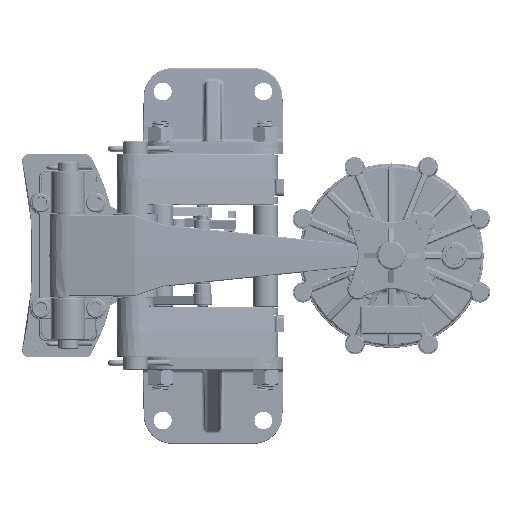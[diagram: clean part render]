
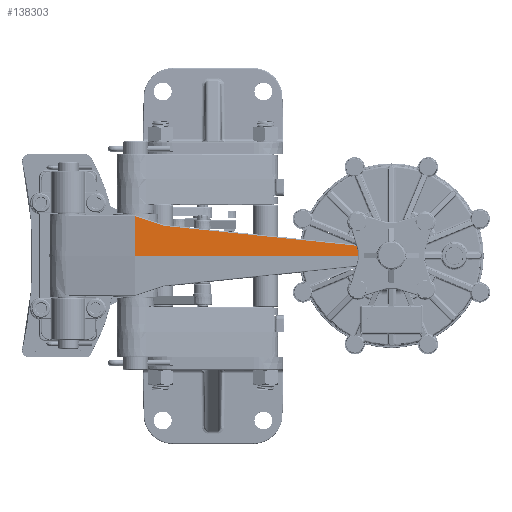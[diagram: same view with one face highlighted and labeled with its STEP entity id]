
A CAD part, top view. The second image highlights one B-rep face of the part: STEP entity #138303.
In plain terms, the highlighted planar face has unit normal (0.053, 0.018, 0.999).
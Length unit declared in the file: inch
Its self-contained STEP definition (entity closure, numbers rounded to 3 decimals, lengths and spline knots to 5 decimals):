
#2 = CARTESIAN_POINT ( 'NONE',  ( 7.8715, 0.2293, 2.876 ) ) ;
#5926 = EDGE_CURVE ( 'NONE', #202025, #146288, #186821, .T. ) ;
#12435 =( BOUNDED_CURVE ( )  B_SPLINE_CURVE ( 3, ( #2, #115040, #45611, #66093 ),
 .UNSPECIFIED., .F., .F. ) 
 B_SPLINE_CURVE_WITH_KNOTS ( ( 4, 4 ),
 ( 5.03367, 5.13538 ),
 .UNSPECIFIED. ) 
 CURVE ( )  GEOMETRIC_REPRESENTATION_ITEM ( )  RATIONAL_B_SPLINE_CURVE ( ( 1., 0.999, 0.999, 1. ) ) 
 REPRESENTATION_ITEM ( '' )  );
#14898 = CARTESIAN_POINT ( 'NONE',  ( 7.6762, 0.23941, 2.8861 ) ) ;
#30531 = CARTESIAN_POINT ( 'NONE',  ( 0.5625, 0.00022, 3.265 ) ) ;
#31300 = DIRECTION ( 'NONE',  ( -0.999, 0., 0.053 ) ) ;
#38786 = VECTOR ( 'NONE', #65146, 39.37008 ) ;
#45572 = VERTEX_POINT ( 'NONE', #170736 ) ;
#45611 = CARTESIAN_POINT ( 'NONE',  ( 7.74108, 0.23273, 2.8828 ) ) ;
#48285 = VERTEX_POINT ( 'NONE', #79803 ) ;
#49575 = EDGE_CURVE ( 'NONE', #146288, #150204, #12435, .T. ) ;
#51912 = FACE_OUTER_BOUND ( 'NONE', #61013, .T. ) ;
#56711 = ORIENTED_EDGE ( 'NONE', *, *, #101797, .F. ) ;
#59167 = VECTOR ( 'NONE', #87705, 39.37008 ) ;
#61013 = EDGE_LOOP ( 'NONE', ( #172047, #203479, #72825, #80546, #56711, #155711 ) ) ;
#65146 = DIRECTION ( 'NONE',  ( 0.001, 1., -0.018 ) ) ;
#66093 = CARTESIAN_POINT ( 'NONE',  ( 7.6762, 0.23941, 2.8861 ) ) ;
#72825 = ORIENTED_EDGE ( 'NONE', *, *, #119573, .T. ) ;
#74888 = CARTESIAN_POINT ( 'NONE',  ( 7.8715, 0.00336, 2.87994 ) ) ;
#79803 = CARTESIAN_POINT ( 'NONE',  ( 0.56347, 1.16781, 3.24454 ) ) ;
#80546 = ORIENTED_EDGE ( 'NONE', *, *, #116086, .T. ) ;
#86645 = DIRECTION ( 'NONE',  ( 0.053, 0.017, 0.998 ) ) ;
#87705 = DIRECTION ( 'NONE',  ( -0.947, 0.318, 0.044 ) ) ;
#100746 = PLANE ( 'NONE',  #130334 ) ;
#101797 = EDGE_CURVE ( 'NONE', #45572, #48285, #179279, .T. ) ;
#102221 = VECTOR ( 'NONE', #178701, 39.37008 ) ;
#102908 = CARTESIAN_POINT ( 'NONE',  ( 0.9539, 1.0369, 3.22626 ) ) ;
#107474 = CARTESIAN_POINT ( 'NONE',  ( 7.8715, 0.2293, 2.876 ) ) ;
#112482 = CARTESIAN_POINT ( 'NONE',  ( 0.70537, 0.9571, 3.24075 ) ) ;
#115040 = CARTESIAN_POINT ( 'NONE',  ( 7.80622, 0.22935, 2.87943 ) ) ;
#116086 = EDGE_CURVE ( 'NONE', #212482, #48285, #168077, .T. ) ;
#119573 = EDGE_CURVE ( 'NONE', #150204, #212482, #129747, .T. ) ;
#119947 = VECTOR ( 'NONE', #31300, 39.37008 ) ;
#120063 = EDGE_CURVE ( 'NONE', #202025, #45572, #180043, .T. ) ;
#129747 = LINE ( 'NONE', #112482, #102221 ) ;
#130334 = AXIS2_PLACEMENT_3D ( 'NONE', #183312, #86645, #167023 ) ;
#138303 = ADVANCED_FACE ( 'NONE', ( #51912 ), #100746, .T. ) ;
#146288 = VERTEX_POINT ( 'NONE', #107474 ) ;
#147491 = CARTESIAN_POINT ( 'NONE',  ( 7.8715, 0., 2.88 ) ) ;
#148461 = CARTESIAN_POINT ( 'NONE',  ( 1.4075, 0.88481, 3.20502 ) ) ;
#150204 = VERTEX_POINT ( 'NONE', #14898 ) ;
#152727 = VECTOR ( 'NONE', #205280, 39.37008 ) ;
#155711 = ORIENTED_EDGE ( 'NONE', *, *, #120063, .F. ) ;
#161652 = CARTESIAN_POINT ( 'NONE',  ( 0.60794, 0., 3.26261 ) ) ;
#167023 = DIRECTION ( 'NONE',  ( -0.999, 0., 0.053 ) ) ;
#168077 = LINE ( 'NONE', #102908, #59167 ) ;
#170736 = CARTESIAN_POINT ( 'NONE',  ( 0.5625, 0., 3.265 ) ) ;
#172047 = ORIENTED_EDGE ( 'NONE', *, *, #5926, .T. ) ;
#178701 = DIRECTION ( 'NONE',  ( -0.993, 0.102, 0.051 ) ) ;
#179279 = LINE ( 'NONE', #30531, #38786 ) ;
#180043 = LINE ( 'NONE', #161652, #119947 ) ;
#183312 = CARTESIAN_POINT ( 'NONE',  ( 0.60794, 0., 3.26261 ) ) ;
#186821 = LINE ( 'NONE', #74888, #152727 ) ;
#202025 = VERTEX_POINT ( 'NONE', #147491 ) ;
#203479 = ORIENTED_EDGE ( 'NONE', *, *, #49575, .T. ) ;
#205280 = DIRECTION ( 'NONE',  ( 0., 1., -0.017 ) ) ;
#212482 = VERTEX_POINT ( 'NONE', #148461 ) ;
